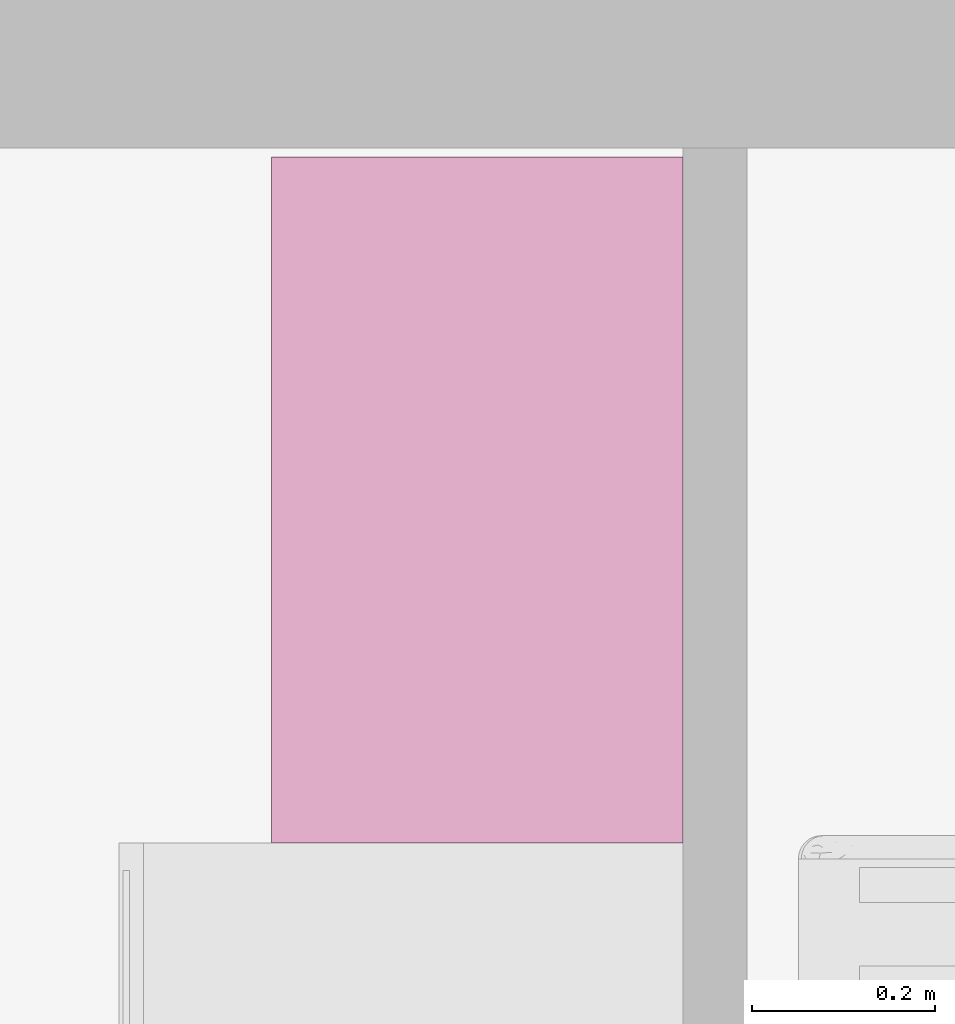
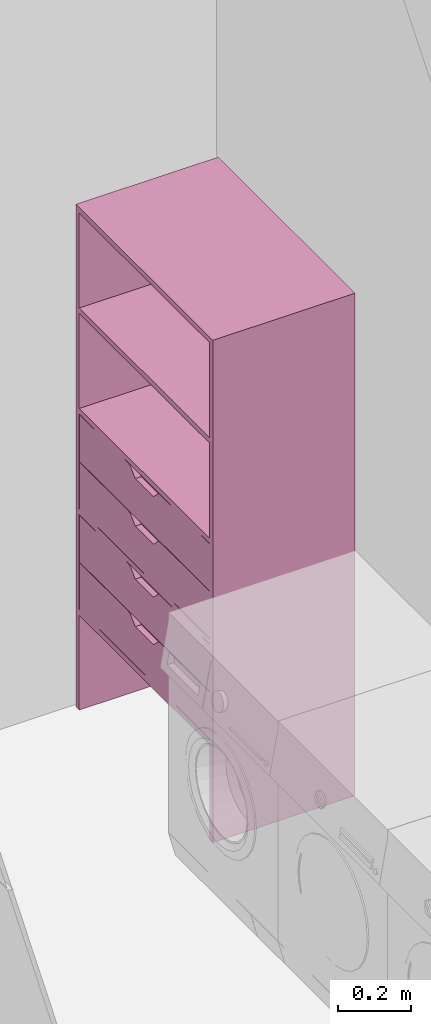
# One storey, part 34 of 40: 1 furnishing.
"""IFC2X3 building model written with IfcOpenShell, lengths in metres."""

from ifc_helpers import new_model, entity, si_unit, converted_unit, derived_unit, direction, frame, origin, place, context, subcontext, project, spatial, faceted_brep, source, transform, mapped, material, type_object, type_shapes, element, save


model = new_model("IFC2X3")

# Units and contexts
model_context = context("Model", 3, precision=1e-05, world=origin(), true_north=direction((6.12303176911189e-17, 1.0)))
body_context = subcontext(model_context, "Body", "Model", "MODEL_VIEW")
ifc_project = project(units=[si_unit("LENGTHUNIT", "METRE"), si_unit("AREAUNIT", "SQUARE_METRE"), si_unit("VOLUMEUNIT", "CUBIC_METRE"), converted_unit("PLANEANGLEUNIT", "DEGREE", entity("IfcRatioMeasure", 0.0174532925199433), si_unit("PLANEANGLEUNIT", "RADIAN"), dimensions=[0, 0, 0, 0, 0, 0, 0]), si_unit("MASSUNIT", "GRAM", prefix="KILO"), derived_unit("MASSDENSITYUNIT", [(si_unit("MASSUNIT", "GRAM", prefix="KILO"), 1), (si_unit("LENGTHUNIT", "METRE"), -3)]), si_unit("TIMEUNIT", "SECOND"), si_unit("FREQUENCYUNIT", "HERTZ"), si_unit("THERMODYNAMICTEMPERATUREUNIT", "DEGREE_CELSIUS"), derived_unit("THERMALTRANSMITTANCEUNIT", [(si_unit("MASSUNIT", "GRAM", prefix="KILO"), 1), (si_unit("THERMODYNAMICTEMPERATUREUNIT", "KELVIN"), -1), (si_unit("TIMEUNIT", "SECOND"), -3)]), derived_unit("VOLUMETRICFLOWRATEUNIT", [(si_unit("LENGTHUNIT", "METRE"), 3), (si_unit("TIMEUNIT", "SECOND"), -1)]), si_unit("ELECTRICCURRENTUNIT", "AMPERE"), si_unit("ELECTRICVOLTAGEUNIT", "VOLT"), si_unit("POWERUNIT", "WATT"), si_unit("FORCEUNIT", "NEWTON", prefix="KILO"), si_unit("ILLUMINANCEUNIT", "LUX"), si_unit("LUMINOUSFLUXUNIT", "LUMEN"), si_unit("LUMINOUSINTENSITYUNIT", "CANDELA"), derived_unit("USERDEFINED", [(si_unit("MASSUNIT", "GRAM", prefix="KILO"), -1), (si_unit("LENGTHUNIT", "METRE"), -2), (si_unit("TIMEUNIT", "SECOND"), 3), (si_unit("LUMINOUSFLUXUNIT", "LUMEN"), 1)]), derived_unit("LINEARVELOCITYUNIT", [(si_unit("LENGTHUNIT", "METRE"), 1), (si_unit("TIMEUNIT", "SECOND"), -1)]), si_unit("PRESSUREUNIT", "PASCAL"), derived_unit("USERDEFINED", [(si_unit("LENGTHUNIT", "METRE"), -2), (si_unit("MASSUNIT", "GRAM", prefix="KILO"), 1), (si_unit("TIMEUNIT", "SECOND"), -2)])], contexts=[model_context])

# Site, building, storey, space
site_placement = place(None, origin())
site = spatial("IfcSite", under=ifc_project, at=site_placement, Name="Surface", CompositionType="ELEMENT")
building_placement = place(site_placement, origin())
building = spatial("IfcBuilding", under=site, at=building_placement, CompositionType="ELEMENT")
storey_placement = place(building_placement, origin())
storey = spatial("IfcBuildingStorey", under=building, at=storey_placement, Name="RDC", CompositionType="ELEMENT", Elevation=-1.0941605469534e-13)
space_placement = place(storey_placement, origin())
space = spatial("IfcSpace", under=storey, at=space_placement, Name="12", CompositionType="ELEMENT", InteriorOrExteriorSpace="INTERNAL")

# Furnishing
ifc_material = material(Name="Mélamine - Blanche")
furniture_type = type_object("IfcFurnitureType", Name="750 x 450 x 1680 mm", material=ifc_material)
shared_shape = source(origin(), body_context, "Body", "Brep", [
    faceted_brep([(0.375700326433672, -0.0449999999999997, 0.974999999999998), (-0.286299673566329, -0.0449999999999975, 0.974999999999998), (-0.286299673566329, -0.0449999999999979, 0.856999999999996), (0.375700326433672, -0.0450000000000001, 0.856999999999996), (0.375700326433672, -0.0299999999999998, 0.974999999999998), (0.375700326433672, -0.0300000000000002, 0.856999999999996), (-0.286299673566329, -0.0299999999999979, 0.856999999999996), (-0.286299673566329, -0.0299999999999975, 0.974999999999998)], [[[0, 1, 2, 3]], [[4, 5, 6, 7]], [[1, 0, 4, 7]], [[2, 1, 7, 6]], [[3, 2, 6, 5]], [[0, 3, 5, 4]]]),
    faceted_brep([(-0.286299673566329, -0.044999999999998, 0.815999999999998), (0.375700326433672, -0.0450000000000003, 0.815999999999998), (0.375700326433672, -0.0300000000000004, 0.815999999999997), (-0.286299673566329, -0.029999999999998, 0.815999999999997), (-0.286299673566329, -0.0449999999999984, 0.697999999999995), (-0.286299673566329, -0.0299999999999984, 0.697999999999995), (0.375700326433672, -0.0450000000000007, 0.697999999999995), (0.375700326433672, -0.0300000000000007, 0.697999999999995)], [[[0, 1, 2, 3]], [[4, 0, 3, 5]], [[6, 4, 5, 7]], [[1, 6, 7, 2]], [[2, 7, 5, 3]], [[1, 0, 4, 6]]]),
    faceted_brep([(-0.302299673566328, -0.0299999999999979, 0.840999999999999), (-0.302299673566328, -0.0299999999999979, 0.975000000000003), (-0.286299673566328, -0.029999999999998, 0.975000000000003), (-0.286299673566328, -0.029999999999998, 0.856999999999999), (0.375700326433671, -0.0300000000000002, 0.856999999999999), (0.375700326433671, -0.0300000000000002, 0.975000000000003), (0.391700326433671, -0.0300000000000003, 0.975000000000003), (0.391700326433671, -0.0300000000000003, 0.840999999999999), (-0.28629967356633, -0.430999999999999, 0.975000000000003), (-0.31129967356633, -0.430999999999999, 0.989000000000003), (-0.0446550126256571, -0.431, 0.988999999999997), (-0.28629967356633, -0.430999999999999, 0.856999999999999), (-0.30229967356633, -0.430999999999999, 0.975000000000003), (-0.31129967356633, -0.430999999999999, 0.831999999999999), (-0.30229967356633, -0.430999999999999, 0.840999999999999), (0.40070032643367, -0.431000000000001, 0.831999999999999), (0.39170032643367, -0.431000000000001, 0.840999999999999), (0.39170032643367, -0.431000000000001, 0.975000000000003), (0.40070032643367, -0.431000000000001, 0.989000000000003), (0.37570032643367, -0.431000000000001, 0.975000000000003), (0.134055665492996, -0.431, 0.988999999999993), (0.37570032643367, -0.431000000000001, 0.856999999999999), (-0.00529967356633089, -0.431, 0.960000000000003), (0.0947003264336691, -0.431, 0.960000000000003), (0.116377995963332, -0.431, 0.981677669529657), (0.121555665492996, -0.431, 0.985650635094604), (0.127585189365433, -0.431, 0.98814814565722), (-0.0269773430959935, -0.431, 0.981677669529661), (-0.0321550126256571, -0.431, 0.985650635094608), (-0.0381845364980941, -0.431, 0.988148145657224), (0.40070032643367, -0.450000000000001, 0.831999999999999), (0.40070032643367, -0.450000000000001, 0.989000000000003), (0.134055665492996, -0.45, 0.988999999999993), (0.127585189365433, -0.45, 0.98814814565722), (0.121555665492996, -0.45, 0.985650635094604), (0.116377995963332, -0.45, 0.981677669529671), (0.094700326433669, -0.45, 0.960000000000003), (-0.00529967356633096, -0.45, 0.960000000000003), (-0.0269773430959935, -0.45, 0.981677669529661), (-0.0321550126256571, -0.45, 0.985650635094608), (-0.0381845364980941, -0.45, 0.988148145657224), (-0.0446550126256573, -0.45, 0.989000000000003), (-0.31129967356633, -0.449999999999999, 0.989000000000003), (-0.31129967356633, -0.449999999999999, 0.831999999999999)], [[[0, 1, 2, 3, 4, 5, 6, 7]], [[8, 9, 10]], [[10, 11, 8]], [[12, 9, 8]], [[12, 13, 9]], [[13, 12, 14]], [[14, 15, 13]], [[15, 14, 16]], [[17, 15, 16]], [[15, 17, 18]], [[19, 18, 17]], [[19, 20, 18]], [[21, 20, 19]], [[22, 21, 11]], [[21, 22, 23]], [[20, 21, 23]], [[24, 20, 23]], [[24, 25, 20]], [[20, 25, 26]], [[22, 10, 27]], [[28, 27, 10]], [[28, 10, 29]], [[11, 10, 22]], [[30, 31, 32, 33, 34, 35, 36, 37, 38, 39, 40, 41, 42, 43]], [[42, 41, 10, 9]], [[32, 31, 18, 20]], [[43, 42, 9, 13]], [[30, 43, 13, 15]], [[31, 30, 15, 18]], [[20, 26, 33, 32]], [[26, 25, 34, 33]], [[25, 24, 35, 34]], [[36, 35, 24, 23]], [[37, 36, 23, 22]], [[38, 37, 22, 27]], [[27, 28, 39, 38]], [[28, 29, 40, 39]], [[29, 10, 41, 40]], [[14, 12, 1, 0]], [[16, 14, 0, 7]], [[17, 16, 7, 6]], [[19, 17, 6, 5]], [[12, 8, 2, 1]], [[21, 19, 5, 4]], [[11, 21, 4, 3]], [[8, 11, 3, 2]]]),
    faceted_brep([(-0.28629967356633, -0.430999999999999, 0.815999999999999), (-0.31129967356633, -0.430999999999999, 0.829999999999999), (-0.044655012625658, -0.431, 0.829999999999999), (-0.28629967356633, -0.430999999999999, 0.698000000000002), (-0.30229967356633, -0.430999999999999, 0.815999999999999), (-0.31129967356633, -0.430999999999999, 0.673000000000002), (-0.30229967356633, -0.430999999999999, 0.682000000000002), (0.40070032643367, -0.431000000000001, 0.673000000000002), (0.39170032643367, -0.431000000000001, 0.682000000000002), (0.39170032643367, -0.431000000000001, 0.815999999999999), (0.40070032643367, -0.431000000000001, 0.829999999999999), (0.37570032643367, -0.431000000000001, 0.815999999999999), (0.134055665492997, -0.431, 0.829999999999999), (0.37570032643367, -0.431000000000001, 0.698000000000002), (-0.00529967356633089, -0.431, 0.800999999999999), (0.0947003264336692, -0.431, 0.800999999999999), (0.116377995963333, -0.431, 0.822677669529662), (0.121555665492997, -0.431, 0.82665063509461), (0.127585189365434, -0.431, 0.829148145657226), (-0.0269773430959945, -0.431, 0.822677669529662), (-0.032155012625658, -0.431, 0.82665063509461), (-0.038184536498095, -0.431, 0.829148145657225), (0.40070032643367, -0.450000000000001, 0.673000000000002), (0.40070032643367, -0.450000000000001, 0.829999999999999), (0.134055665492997, -0.45, 0.829999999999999), (0.127585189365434, -0.45, 0.829148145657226), (0.121555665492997, -0.45, 0.82665063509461), (0.116377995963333, -0.45, 0.822677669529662), (0.0947003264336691, -0.45, 0.800999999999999), (-0.00529967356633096, -0.45, 0.800999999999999), (-0.0269773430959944, -0.45, 0.822677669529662), (-0.0321550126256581, -0.45, 0.82665063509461), (-0.0381845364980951, -0.45, 0.829148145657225), (-0.0446550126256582, -0.45, 0.829999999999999), (-0.31129967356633, -0.449999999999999, 0.829999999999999), (-0.31129967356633, -0.449999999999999, 0.673000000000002), (-0.302299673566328, -0.0299999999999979, 0.682000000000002), (-0.302299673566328, -0.0299999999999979, 0.815999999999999), (-0.286299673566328, -0.029999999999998, 0.815999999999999), (-0.286299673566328, -0.029999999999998, 0.698000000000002), (0.375700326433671, -0.0300000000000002, 0.698000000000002), (0.375700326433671, -0.0300000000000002, 0.815999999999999), (0.391700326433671, -0.0300000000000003, 0.815999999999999), (0.391700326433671, -0.0300000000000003, 0.682000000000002)], [[[0, 1, 2]], [[2, 3, 0]], [[4, 1, 0]], [[4, 5, 1]], [[5, 4, 6]], [[6, 7, 5]], [[7, 6, 8]], [[9, 7, 8]], [[7, 9, 10]], [[11, 10, 9]], [[11, 12, 10]], [[13, 12, 11]], [[14, 13, 3]], [[13, 14, 15]], [[12, 13, 15]], [[16, 12, 15]], [[16, 17, 12]], [[12, 17, 18]], [[14, 2, 19]], [[20, 19, 2]], [[20, 2, 21]], [[3, 2, 14]], [[22, 23, 24, 25, 26, 27, 28, 29, 30, 31, 32, 33, 34, 35]], [[34, 33, 2, 1]], [[24, 23, 10, 12]], [[35, 34, 1, 5]], [[22, 35, 5, 7]], [[23, 22, 7, 10]], [[12, 18, 25, 24]], [[18, 17, 26, 25]], [[17, 16, 27, 26]], [[28, 27, 16, 15]], [[29, 28, 15, 14]], [[30, 29, 14, 19]], [[19, 20, 31, 30]], [[20, 21, 32, 31]], [[21, 2, 33, 32]], [[36, 37, 38, 39, 40, 41, 42, 43]], [[6, 4, 37, 36]], [[8, 6, 36, 43]], [[9, 8, 43, 42]], [[11, 9, 42, 41]], [[4, 0, 38, 37]], [[13, 11, 41, 40]], [[3, 13, 40, 39]], [[0, 3, 39, 38]]]),
    faceted_brep([(0.37570032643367, -0.0449999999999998, 0.638999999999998), (-0.28629967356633, -0.0449999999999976, 0.638999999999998), (-0.28629967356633, -0.0449999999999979, 0.520999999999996), (0.37570032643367, -0.0450000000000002, 0.520999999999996), (0.37570032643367, -0.0299999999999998, 0.638999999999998), (0.37570032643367, -0.0300000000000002, 0.520999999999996), (-0.28629967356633, -0.029999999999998, 0.520999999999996), (-0.28629967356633, -0.0299999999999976, 0.638999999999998)], [[[0, 1, 2, 3]], [[4, 5, 6, 7]], [[1, 0, 4, 7]], [[2, 1, 7, 6]], [[3, 2, 6, 5]], [[0, 3, 5, 4]]]),
    faceted_brep([(-0.28629967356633, -0.0449999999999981, 0.479999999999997), (0.37570032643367, -0.0450000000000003, 0.479999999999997), (0.37570032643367, -0.0300000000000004, 0.479999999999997), (-0.28629967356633, -0.0299999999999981, 0.479999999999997), (-0.28629967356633, -0.0449999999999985, 0.361999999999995), (-0.28629967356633, -0.0299999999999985, 0.361999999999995), (0.37570032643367, -0.0450000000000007, 0.361999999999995), (0.37570032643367, -0.0300000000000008, 0.361999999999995)], [[[0, 1, 2, 3]], [[4, 0, 3, 5]], [[6, 4, 5, 7]], [[1, 6, 7, 2]], [[2, 7, 5, 3]], [[1, 0, 4, 6]]]),
    faceted_brep([(-0.302299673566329, -0.029999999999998, 0.504999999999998), (-0.302299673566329, -0.029999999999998, 0.639000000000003), (-0.286299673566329, -0.029999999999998, 0.639000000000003), (-0.286299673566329, -0.029999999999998, 0.520999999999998), (0.37570032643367, -0.0300000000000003, 0.520999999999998), (0.37570032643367, -0.0300000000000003, 0.639000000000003), (0.39170032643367, -0.0300000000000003, 0.639000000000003), (0.39170032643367, -0.0300000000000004, 0.504999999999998), (-0.286299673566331, -0.430999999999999, 0.639000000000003), (-0.311299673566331, -0.430999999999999, 0.653000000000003), (-0.0446550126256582, -0.431, 0.652999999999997), (-0.286299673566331, -0.430999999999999, 0.520999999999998), (-0.302299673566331, -0.430999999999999, 0.639000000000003), (-0.311299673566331, -0.430999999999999, 0.495999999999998), (-0.302299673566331, -0.430999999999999, 0.504999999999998), (0.400700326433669, -0.431000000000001, 0.495999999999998), (0.391700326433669, -0.431000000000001, 0.504999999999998), (0.391700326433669, -0.431000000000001, 0.639000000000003), (0.400700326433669, -0.431000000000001, 0.653000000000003), (0.375700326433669, -0.431000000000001, 0.639000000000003), (0.134055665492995, -0.431, 0.652999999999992), (0.375700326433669, -0.431000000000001, 0.520999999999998), (-0.00529967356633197, -0.431, 0.624000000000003), (0.094700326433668, -0.431, 0.624000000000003), (0.116377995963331, -0.431, 0.645677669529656), (0.121555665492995, -0.431, 0.649650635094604), (0.127585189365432, -0.431, 0.652148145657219), (-0.0269773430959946, -0.431, 0.64567766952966), (-0.0321550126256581, -0.431, 0.649650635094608), (-0.0381845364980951, -0.431, 0.652148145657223), (0.400700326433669, -0.450000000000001, 0.495999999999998), (0.400700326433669, -0.450000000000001, 0.653000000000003), (0.134055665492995, -0.450000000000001, 0.652999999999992), (0.127585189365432, -0.450000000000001, 0.652148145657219), (0.121555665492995, -0.450000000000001, 0.649650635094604), (0.116377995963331, -0.45, 0.645677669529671), (0.094700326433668, -0.45, 0.624000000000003), (-0.00529967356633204, -0.45, 0.624000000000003), (-0.0269773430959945, -0.45, 0.64567766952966), (-0.0321550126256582, -0.45, 0.649650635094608), (-0.0381845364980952, -0.45, 0.652148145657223), (-0.0446550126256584, -0.45, 0.653000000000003), (-0.311299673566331, -0.449999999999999, 0.653000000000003), (-0.311299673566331, -0.449999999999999, 0.495999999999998)], [[[0, 1, 2, 3, 4, 5, 6, 7]], [[8, 9, 10]], [[10, 11, 8]], [[12, 9, 8]], [[12, 13, 9]], [[13, 12, 14]], [[14, 15, 13]], [[15, 14, 16]], [[17, 15, 16]], [[15, 17, 18]], [[19, 18, 17]], [[19, 20, 18]], [[21, 20, 19]], [[22, 21, 11]], [[21, 22, 23]], [[20, 21, 23]], [[24, 20, 23]], [[24, 25, 20]], [[20, 25, 26]], [[22, 10, 27]], [[28, 27, 10]], [[28, 10, 29]], [[11, 10, 22]], [[30, 31, 32, 33, 34, 35, 36, 37, 38, 39, 40, 41, 42, 43]], [[42, 41, 10, 9]], [[32, 31, 18, 20]], [[43, 42, 9, 13]], [[30, 43, 13, 15]], [[31, 30, 15, 18]], [[20, 26, 33, 32]], [[26, 25, 34, 33]], [[25, 24, 35, 34]], [[36, 35, 24, 23]], [[37, 36, 23, 22]], [[38, 37, 22, 27]], [[27, 28, 39, 38]], [[28, 29, 40, 39]], [[29, 10, 41, 40]], [[14, 12, 1, 0]], [[16, 14, 0, 7]], [[17, 16, 7, 6]], [[19, 17, 6, 5]], [[12, 8, 2, 1]], [[21, 19, 5, 4]], [[11, 21, 4, 3]], [[8, 11, 3, 2]]]),
    faceted_brep([(-0.286299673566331, -0.430999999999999, 0.479999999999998), (-0.311299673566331, -0.430999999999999, 0.493999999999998), (-0.0446550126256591, -0.431, 0.493999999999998), (-0.286299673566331, -0.430999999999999, 0.362000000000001), (-0.302299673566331, -0.430999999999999, 0.479999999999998), (-0.311299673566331, -0.430999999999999, 0.337000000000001), (-0.302299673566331, -0.430999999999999, 0.346000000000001), (0.400700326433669, -0.431000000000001, 0.337000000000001), (0.391700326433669, -0.431000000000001, 0.346000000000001), (0.391700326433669, -0.431000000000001, 0.479999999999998), (0.400700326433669, -0.431000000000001, 0.493999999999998), (0.375700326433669, -0.431000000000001, 0.479999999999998), (0.134055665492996, -0.431, 0.493999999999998), (0.375700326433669, -0.431000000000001, 0.362000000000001), (-0.00529967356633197, -0.431, 0.464999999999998), (0.0947003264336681, -0.431, 0.464999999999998), (0.116377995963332, -0.431, 0.486677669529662), (0.121555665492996, -0.431, 0.490650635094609), (0.127585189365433, -0.431, 0.493148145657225), (-0.0269773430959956, -0.431, 0.486677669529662), (-0.0321550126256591, -0.431, 0.490650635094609), (-0.0381845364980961, -0.431, 0.493148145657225), (0.400700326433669, -0.450000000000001, 0.337000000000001), (0.400700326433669, -0.450000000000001, 0.493999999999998), (0.134055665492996, -0.450000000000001, 0.493999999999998), (0.127585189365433, -0.450000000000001, 0.493148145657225), (0.121555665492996, -0.450000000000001, 0.490650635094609), (0.116377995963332, -0.450000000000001, 0.486677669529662), (0.094700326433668, -0.45, 0.464999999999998), (-0.00529967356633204, -0.45, 0.464999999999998), (-0.0269773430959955, -0.45, 0.486677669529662), (-0.0321550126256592, -0.45, 0.490650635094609), (-0.0381845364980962, -0.45, 0.493148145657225), (-0.0446550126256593, -0.45, 0.493999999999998), (-0.311299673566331, -0.449999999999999, 0.493999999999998), (-0.311299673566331, -0.449999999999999, 0.337000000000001), (-0.302299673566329, -0.029999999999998, 0.346000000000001), (-0.302299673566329, -0.029999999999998, 0.479999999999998), (-0.286299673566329, -0.029999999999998, 0.479999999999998), (-0.286299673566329, -0.029999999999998, 0.362000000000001), (0.37570032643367, -0.0300000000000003, 0.362000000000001), (0.37570032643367, -0.0300000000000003, 0.479999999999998), (0.39170032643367, -0.0300000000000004, 0.479999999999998), (0.39170032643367, -0.0300000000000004, 0.346000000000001)], [[[0, 1, 2]], [[2, 3, 0]], [[4, 1, 0]], [[4, 5, 1]], [[5, 4, 6]], [[6, 7, 5]], [[7, 6, 8]], [[9, 7, 8]], [[7, 9, 10]], [[11, 10, 9]], [[11, 12, 10]], [[13, 12, 11]], [[14, 13, 3]], [[13, 14, 15]], [[12, 13, 15]], [[16, 12, 15]], [[16, 17, 12]], [[12, 17, 18]], [[14, 2, 19]], [[20, 19, 2]], [[20, 2, 21]], [[3, 2, 14]], [[22, 23, 24, 25, 26, 27, 28, 29, 30, 31, 32, 33, 34, 35]], [[34, 33, 2, 1]], [[24, 23, 10, 12]], [[35, 34, 1, 5]], [[22, 35, 5, 7]], [[23, 22, 7, 10]], [[12, 18, 25, 24]], [[18, 17, 26, 25]], [[17, 16, 27, 26]], [[28, 27, 16, 15]], [[29, 28, 15, 14]], [[30, 29, 14, 19]], [[19, 20, 31, 30]], [[20, 21, 32, 31]], [[21, 2, 33, 32]], [[36, 37, 38, 39, 40, 41, 42, 43]], [[6, 4, 37, 36]], [[8, 6, 36, 43]], [[9, 8, 43, 42]], [[11, 9, 42, 41]], [[4, 0, 38, 37]], [[13, 11, 41, 40]], [[3, 13, 40, 39]], [[0, 3, 39, 38]]]),
    faceted_brep([(0.401700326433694, -0.45, 0.316999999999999), (0.401700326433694, -0.45, 0.335999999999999), (-0.312299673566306, -0.45, 0.335999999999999), (-0.312299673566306, -0.45, 0.316999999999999), (0.401700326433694, 0.0, 0.316999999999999), (0.401700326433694, 0.0, 0.335999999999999), (-0.312299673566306, 0.0, 0.335999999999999), (-0.312299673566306, 0.0, 0.316999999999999)], [[[0, 1, 2, 3]], [[1, 0, 4, 5]], [[2, 1, 5, 6]], [[3, 2, 6, 7]], [[0, 3, 7, 4]], [[4, 7, 6, 5]]]),
    faceted_brep([(0.401700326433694, -0.45, 0.672000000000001), (0.401700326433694, -0.45, 0.654), (0.401700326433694, 0.0, 0.654), (0.401700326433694, 0.0, 0.672000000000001), (-0.312299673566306, -0.45, 0.672000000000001), (-0.312299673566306, 0.0, 0.672000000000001), (-0.312299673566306, -0.45, 0.654), (-0.312299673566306, 0.0, 0.654)], [[[0, 1, 2, 3]], [[4, 0, 3, 5]], [[6, 4, 5, 7]], [[1, 6, 7, 2]], [[2, 7, 5, 3]], [[1, 0, 4, 6]]]),
    faceted_brep([(-0.312299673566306, -0.45, 1.008), (0.401700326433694, -0.45, 1.008), (0.401700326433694, 0.0, 1.008), (-0.312299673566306, 0.0, 1.008), (-0.312299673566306, -0.45, 0.99), (-0.312299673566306, 0.0, 0.99), (0.401700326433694, -0.45, 0.99), (0.401700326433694, 0.0, 0.99)], [[[0, 1, 2, 3]], [[4, 0, 3, 5]], [[6, 4, 5, 7]], [[1, 6, 7, 2]], [[2, 7, 5, 3]], [[1, 0, 4, 6]]]),
    faceted_brep([(0.401700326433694, 0.0, 1.662), (-0.312299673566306, 0.0, 1.662), (-0.312299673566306, 0.0, 1.68), (0.401700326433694, 0.0, 1.68), (0.401700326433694, -0.45, 1.68), (0.401700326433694, -0.45, 1.662), (-0.312299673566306, -0.45, 1.68), (-0.312299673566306, -0.45, 1.662)], [[[0, 1, 2, 3]], [[4, 5, 0, 3]], [[6, 4, 3, 2]], [[7, 6, 2, 1]], [[5, 7, 1, 0]], [[5, 4, 6, 7]]]),
    faceted_brep([(0.401700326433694, -0.45, 1.344), (0.401700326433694, -0.45, 1.326), (0.401700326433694, 0.0, 1.326), (0.401700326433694, 0.0, 1.344), (-0.312299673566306, -0.45, 1.344), (-0.312299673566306, 0.0, 1.344), (-0.312299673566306, -0.45, 1.326), (-0.312299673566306, 0.0, 1.326)], [[[0, 1, 2, 3]], [[4, 0, 3, 5]], [[6, 4, 5, 7]], [[1, 6, 7, 2]], [[2, 7, 5, 3]], [[1, 0, 4, 6]]]),
    faceted_brep([(-0.312299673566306, 0.0, 0.0), (-0.312299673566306, -0.45, 0.0), (-0.330299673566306, -0.45, 0.0), (-0.330299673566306, 0.0, 0.0), (-0.312299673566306, 0.0, 1.68), (-0.312299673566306, -0.45, 1.68), (-0.330299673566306, -0.45, 1.68), (-0.330299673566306, 0.0, 1.68)], [[[0, 1, 2, 3]], [[4, 5, 1, 0]], [[5, 6, 2, 1]], [[6, 7, 3, 2]], [[7, 4, 0, 3]], [[4, 7, 6, 5]]]),
    faceted_brep([(0.419700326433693, 0.0, 1.68), (0.419700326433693, -0.45, 1.68), (0.419700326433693, -0.45, 0.0), (0.419700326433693, 0.0, 0.0), (0.401700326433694, -0.45, 1.68), (0.401700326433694, -0.45, 0.0), (0.401700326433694, 0.0, 1.68), (0.401700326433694, 0.0, 0.0)], [[[0, 1, 2, 3]], [[1, 4, 5, 2]], [[4, 6, 7, 5]], [[6, 0, 3, 7]], [[0, 6, 4, 1]], [[3, 2, 5, 7]]]),
])
type_shapes(furniture_type, [shared_shape])
furnishing_placement = place(space_placement, frame((-2.57248888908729, 7.20671100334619, 0.0), z_axis=(0.0, 0.0, 1.0), x_axis=(0.0, -1.0, 0.0)))
element("IfcFurnishingElement", 1, at=furnishing_placement, inside=space, type_object=furniture_type, material=ifc_material, Name="Dressing - Colonne Rangement:750 x 450 x 1680 mm", ObjectType="750 x 450 x 1680 mm", context=body_context, shape_type="MappedRepresentation", body=[
    mapped(shared_shape, transform((0.0, 0.0, 0.0), scale=1.0)),
])

save(model, "model.ifc")
